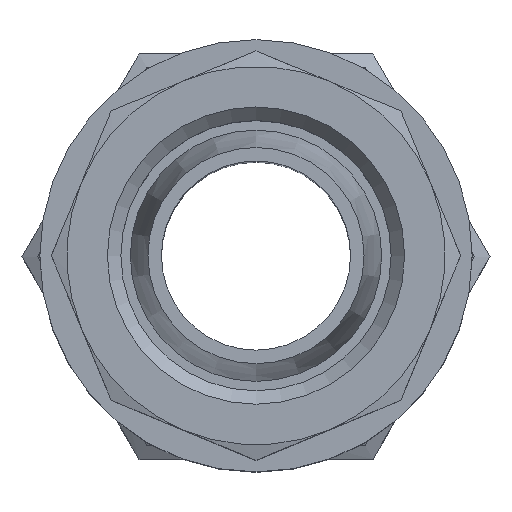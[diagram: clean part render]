
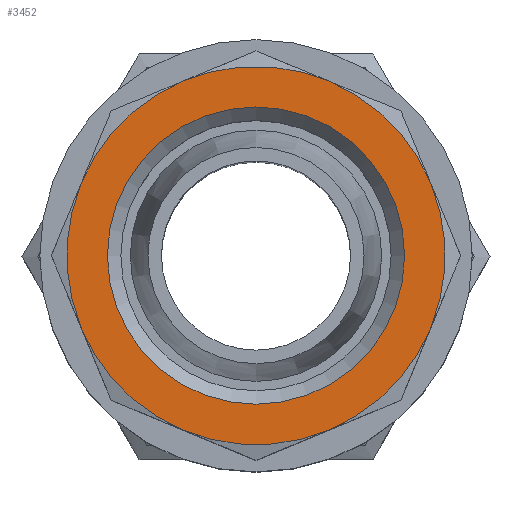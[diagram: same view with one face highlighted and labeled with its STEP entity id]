
A CAD part, top view. The second image highlights one B-rep face of the part: STEP entity #3452.
In plain terms, the highlighted planar face has unit normal (0, 0, 1) as drawn and (0, 1, 0) by its records, which use the part's own axes.
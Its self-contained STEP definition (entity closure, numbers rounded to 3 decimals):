
#2004=ORIENTED_EDGE('',*,*,#2375,.F.);
#2005=ORIENTED_EDGE('',*,*,#2376,.F.);
#2006=ORIENTED_EDGE('',*,*,#2377,.F.);
#2007=ORIENTED_EDGE('',*,*,#2378,.F.);
#2008=ORIENTED_EDGE('',*,*,#2379,.F.);
#2009=ORIENTED_EDGE('',*,*,#2380,.F.);
#2010=ORIENTED_EDGE('',*,*,#2381,.F.);
#2011=ORIENTED_EDGE('',*,*,#2382,.F.);
#2012=ORIENTED_EDGE('',*,*,#2374,.T.);
#2146=CIRCLE('',#3300,5.5);
#2147=CIRCLE('',#3302,7.);
#2148=CIRCLE('',#3303,7.);
#2149=CIRCLE('',#3304,7.);
#2150=CIRCLE('',#3305,7.);
#2151=CIRCLE('',#3306,7.);
#2152=CIRCLE('',#3307,7.);
#2153=CIRCLE('',#3308,7.);
#2154=CIRCLE('',#3309,7.);
#2234=VERTEX_POINT('',#3734);
#2235=VERTEX_POINT('',#3737);
#2236=VERTEX_POINT('',#3738);
#2237=VERTEX_POINT('',#3740);
#2238=VERTEX_POINT('',#3742);
#2239=VERTEX_POINT('',#3744);
#2240=VERTEX_POINT('',#3746);
#2241=VERTEX_POINT('',#3748);
#2242=VERTEX_POINT('',#3750);
#2374=EDGE_CURVE('',#2234,#2234,#2146,.T.);
#2375=EDGE_CURVE('',#2235,#2236,#2147,.T.);
#2376=EDGE_CURVE('',#2237,#2235,#2148,.T.);
#2377=EDGE_CURVE('',#2238,#2237,#2149,.T.);
#2378=EDGE_CURVE('',#2239,#2238,#2150,.T.);
#2379=EDGE_CURVE('',#2240,#2239,#2151,.T.);
#2380=EDGE_CURVE('',#2241,#2240,#2152,.T.);
#2381=EDGE_CURVE('',#2242,#2241,#2153,.T.);
#2382=EDGE_CURVE('',#2236,#2242,#2154,.T.);
#2512=EDGE_LOOP('',(#2004,#2005,#2006,#2007,#2008,#2009,#2010,#2011));
#2513=EDGE_LOOP('',(#2012));
#2634=FACE_BOUND('',#2512,.T.);
#2635=FACE_BOUND('',#2513,.T.);
#3008=DIRECTION('',(0.,-1.,0.));
#3009=DIRECTION('',(0.,0.,-5.5));
#3010=DIRECTION('',(0.,1.,0.));
#3011=DIRECTION('',(1.,0.,0.));
#3012=DIRECTION('',(0.,-1.,0.));
#3013=DIRECTION('',(0.,0.,7.));
#3014=DIRECTION('',(0.,-1.,0.));
#3015=DIRECTION('',(0.,0.,7.));
#3016=DIRECTION('',(0.,-1.,0.));
#3017=DIRECTION('',(0.,0.,7.));
#3018=DIRECTION('',(0.,-1.,0.));
#3019=DIRECTION('',(0.,0.,7.));
#3020=DIRECTION('',(0.,-1.,0.));
#3021=DIRECTION('',(0.,0.,7.));
#3022=DIRECTION('',(0.,-1.,0.));
#3023=DIRECTION('',(0.,0.,7.));
#3024=DIRECTION('',(0.,-1.,0.));
#3025=DIRECTION('',(0.,0.,7.));
#3026=DIRECTION('',(0.,-1.,0.));
#3027=DIRECTION('',(0.,0.,7.));
#3300=AXIS2_PLACEMENT_3D('',#3735,#3008,#3009);
#3301=AXIS2_PLACEMENT_3D('',#3736,#3010,#3011);
#3302=AXIS2_PLACEMENT_3D('',#3739,#3012,#3013);
#3303=AXIS2_PLACEMENT_3D('',#3741,#3014,#3015);
#3304=AXIS2_PLACEMENT_3D('',#3743,#3016,#3017);
#3305=AXIS2_PLACEMENT_3D('',#3745,#3018,#3019);
#3306=AXIS2_PLACEMENT_3D('',#3747,#3020,#3021);
#3307=AXIS2_PLACEMENT_3D('',#3749,#3022,#3023);
#3308=AXIS2_PLACEMENT_3D('',#3751,#3024,#3025);
#3309=AXIS2_PLACEMENT_3D('',#3752,#3026,#3027);
#3377=PLANE('',#3301);
#3452=ADVANCED_FACE('',(#2634,#2635),#3377,.T.);
#3734=CARTESIAN_POINT('',(26.989,28.095,-5.5));
#3735=CARTESIAN_POINT('',(26.989,28.095,0.));
#3736=CARTESIAN_POINT('',(29.668,28.095,6.467));
#3737=CARTESIAN_POINT('',(20.522,28.095,-2.679));
#3738=CARTESIAN_POINT('',(24.31,28.095,-6.467));
#3739=CARTESIAN_POINT('',(26.989,28.095,0.));
#3740=CARTESIAN_POINT('',(20.522,28.095,2.679));
#3741=CARTESIAN_POINT('',(26.989,28.095,0.));
#3742=CARTESIAN_POINT('',(24.31,28.095,6.467));
#3743=CARTESIAN_POINT('',(26.989,28.095,0.));
#3744=CARTESIAN_POINT('',(29.668,28.095,6.467));
#3745=CARTESIAN_POINT('',(26.989,28.095,0.));
#3746=CARTESIAN_POINT('',(33.456,28.095,2.679));
#3747=CARTESIAN_POINT('',(26.989,28.095,0.));
#3748=CARTESIAN_POINT('',(33.456,28.095,-2.679));
#3749=CARTESIAN_POINT('',(26.989,28.095,0.));
#3750=CARTESIAN_POINT('',(29.668,28.095,-6.467));
#3751=CARTESIAN_POINT('',(26.989,28.095,0.));
#3752=CARTESIAN_POINT('',(26.989,28.095,0.));
